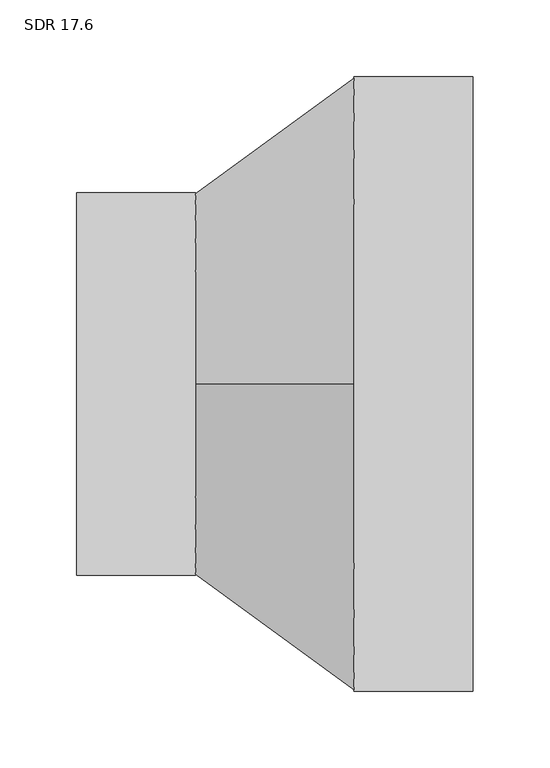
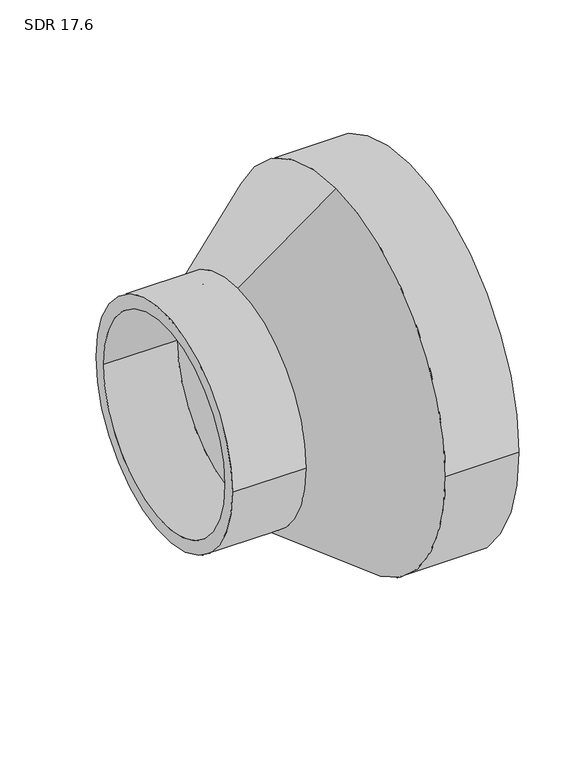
"""IFC4 building model written with IfcOpenShell, lengths in millimetres: pipe fitting geometry, Aquatherm - Reducing Coupling Combined - METRIC : SDR 17.6."""

from ifc_helpers import new_model, si_unit, frame, origin, place, context, project, spatial, polyline, circle_curve, source, transform, mapped, element, save
from ifc_brep_helpers import plane_surface, cylinder_surface, revolved_surface, advanced_brep


def sdr_17_6_3ecfc530(model_context):
    return source(origin(), model_context, "Body", "AdvancedBrep", [
        advanced_brep(
        [(-129.54, -124.968, 0.0), (-129.54, 124.968, 0.0), (-129.54, -110.7670909, 0.0), (-129.54, 110.7670909, 0.0), (-51.816, 110.7670909, 0.0), (-51.816, 0.0, 110.7670909), (-51.816, -110.7670909, 0.0), (-51.816, 0.0, -110.7670909), (-51.816, 124.968, 0.0), (-51.816, 0.0, -124.968), (-51.816, -124.968, 0.0), (-51.816, 0.0, 124.968), (129.54, -200.66, 0.0), (129.54, 200.66, 0.0), (129.54, -177.8577273, 0.0), (129.54, 177.8577273, 0.0), (51.816, -200.66, 0.0), (51.816, 0.0, -200.66), (51.816, 200.66, 0.0), (51.816, 0.0, 200.66), (51.816, -177.8577273, 0.0), (51.816, 0.0, 177.8577273), (51.816, 177.8577273, 0.0), (51.816, 0.0, -177.8577273)],
        [
            (0, 1, circle_curve(frame((-129.54, 0.0, 0.0), z_axis=(-1.0, 0.0, 0.0), x_axis=(0.0, 1.0, 0.0)), 124.968)),
            (1, 0, circle_curve(frame((-129.54, 0.0, 0.0), z_axis=(-1.0, 0.0, 0.0), x_axis=(0.0, 1.0, 0.0)), 124.968)),
            (2, 3, circle_curve(frame((-129.54, 0.0, 0.0), z_axis=(1.0, 0.0, 0.0), x_axis=(0.0, 1.0, 0.0)), 110.7670909)),
            (3, 2, circle_curve(frame((-129.54, 0.0, 0.0), z_axis=(1.0, 0.0, 0.0), x_axis=(0.0, 1.0, 0.0)), 110.7670909)),
            (3, 4),
            (4, 5, circle_curve(frame((-51.816, 0.0, 0.0), z_axis=(1.0, 0.0, 0.0), x_axis=(0.0, 1.0, 0.0)), 110.7670909)),
            (5, 6, circle_curve(frame((-51.816, 0.0, 0.0), z_axis=(1.0, 0.0, 0.0), x_axis=(0.0, 1.0, 0.0)), 110.7670909)),
            (6, 2),
            (6, 7, circle_curve(frame((-51.816, 0.0, 0.0), z_axis=(1.0, 0.0, 0.0), x_axis=(0.0, 1.0, 0.0)), 110.7670909)),
            (7, 4, circle_curve(frame((-51.816, 0.0, 0.0), z_axis=(1.0, 0.0, 0.0), x_axis=(0.0, 1.0, 0.0)), 110.7670909)),
            (1, 8),
            (8, 9, circle_curve(frame((-51.816, 0.0, 0.0), z_axis=(-1.0, 0.0, 0.0), x_axis=(0.0, 1.0, 0.0)), 124.968)),
            (9, 10, circle_curve(frame((-51.816, 0.0, 0.0), z_axis=(-1.0, 0.0, 0.0), x_axis=(0.0, 1.0, 0.0)), 124.968)),
            (10, 0),
            (10, 11, circle_curve(frame((-51.816, 0.0, 0.0), z_axis=(-1.0, 0.0, 0.0), x_axis=(0.0, 1.0, 0.0)), 124.968)),
            (11, 8, circle_curve(frame((-51.816, 0.0, 0.0), z_axis=(-1.0, 0.0, 0.0), x_axis=(0.0, 1.0, 0.0)), 124.968)),
            (12, 13, circle_curve(frame((129.54, 0.0, 0.0), z_axis=(1.0, 0.0, 0.0), x_axis=(0.0, 1.0, 0.0)), 200.66)),
            (13, 12, circle_curve(frame((129.54, 0.0, 0.0), z_axis=(1.0, 0.0, 0.0), x_axis=(0.0, 1.0, 0.0)), 200.66)),
            (14, 15, circle_curve(frame((129.54, 0.0, 0.0), z_axis=(-1.0, 0.0, 0.0), x_axis=(0.0, 1.0, 0.0)), 177.8577273)),
            (15, 14, circle_curve(frame((129.54, 0.0, 0.0), z_axis=(-1.0, 0.0, 0.0), x_axis=(0.0, 1.0, 0.0)), 177.8577273)),
            (12, 16),
            (16, 17, circle_curve(frame((51.816, 0.0, 0.0), z_axis=(1.0, 0.0, 0.0), x_axis=(0.0, 1.0, 0.0)), 200.66)),
            (17, 18, circle_curve(frame((51.816, 0.0, 0.0), z_axis=(1.0, 0.0, 0.0), x_axis=(0.0, 1.0, 0.0)), 200.66)),
            (18, 13),
            (18, 19, circle_curve(frame((51.816, 0.0, 0.0), z_axis=(1.0, 0.0, 0.0), x_axis=(0.0, 1.0, 0.0)), 200.66)),
            (19, 16, circle_curve(frame((51.816, 0.0, 0.0), z_axis=(1.0, 0.0, 0.0), x_axis=(0.0, 1.0, 0.0)), 200.66)),
            (14, 20),
            (20, 21, circle_curve(frame((51.816, 0.0, 0.0), z_axis=(-1.0, 0.0, 0.0), x_axis=(0.0, 1.0, 0.0)), 177.8577273)),
            (21, 22, circle_curve(frame((51.816, 0.0, 0.0), z_axis=(-1.0, 0.0, 0.0), x_axis=(0.0, 1.0, 0.0)), 177.8577273)),
            (22, 15),
            (22, 23, circle_curve(frame((51.816, 0.0, 0.0), z_axis=(-1.0, 0.0, 0.0), x_axis=(0.0, 1.0, 0.0)), 177.8577273)),
            (23, 20, circle_curve(frame((51.816, 0.0, 0.0), z_axis=(-1.0, 0.0, 0.0), x_axis=(0.0, 1.0, 0.0)), 177.8577273)),
            (11, 19),
            (17, 9),
            (21, 5),
            (7, 23),
        ],
        [
            plane_surface(frame((-129.54, 110.7670909, 0.0), z_axis=(-1.0, 0.0, 0.0), x_axis=(0.0, 0.0, 1.0))),
            revolved_surface(polyline([(-129.54, 110.7670909, 0.0), (-51.816, 110.7670909, 0.0)]), (-129.54, 0.0, 0.0), (-1.0, 0.0, 0.0)),
            cylinder_surface(frame((0.0, 0.0, 0.0), z_axis=(1.0, 0.0, 0.0), x_axis=(0.0, 1.0, 0.0)), 124.968),
            plane_surface(frame((129.54, 200.66, 0.0), z_axis=(1.0, 0.0, 0.0), x_axis=(0.0, 0.0, 1.0))),
            cylinder_surface(frame((51.816, 0.0, 0.0), z_axis=(1.0, 0.0, 0.0), x_axis=(0.0, 1.0, 0.0)), 200.66),
            revolved_surface(polyline([(51.816, 177.8577273, 0.0), (129.54, 177.8577273, 0.0)]), (0.0, 0.0, 0.0), (-1.0, 0.0, 0.0)),
            revolved_surface(polyline([(51.816, 0.0, 200.66), (-51.816, 0.0, 124.968)]), (-704.7995384, 0.0, 0.0), (-1.0, 0.0, 0.0)),
            revolved_surface(polyline([(-51.816, 0.0, 110.7670909), (51.816, 0.0, 177.8577273)]), (-704.7995384, 0.0, 0.0), (-1.0, 0.0, 0.0)),
        ],
        [
            (0, [[1, 2], [3, 4]]),
            (1, [[-4, 5, 6, 7, 8]]),
            (1, [[-3, -8, 9, 10, -5]]),
            (2, [[-2, 11, 12, 13, 14]]),
            (2, [[-1, -14, 15, 16, -11]]),
            (3, [[17, 18], [19, 20]]),
            (4, [[-17, 21, 22, 23, 24]]),
            (4, [[-18, -24, 25, 26, -21]]),
            (5, [[-19, 27, 28, 29, 30]]),
            (5, [[-20, -30, 31, 32, -27]]),
            (6, [[33, -25, -23, 34, -12, -16]]),
            (6, [[-33, -15, -13, -34, -22, -26]]),
            (7, [[35, -6, -10, 36, -31, -29]]),
            (7, [[-35, -28, -32, -36, -9, -7]]),
        ],
    ),
    ])


if __name__ == "__main__":
    model = new_model("IFC4")
    model_context = context("Model", 3, world=origin())
    ifc_project = project(units=[si_unit("LENGTHUNIT", "METRE", prefix="MILLI")], contexts=[model_context])
    site = spatial("IfcSite", under=ifc_project)
    building = spatial("IfcBuilding", under=site)
    placement = place(None, origin())
    sdr_17_6_shape = sdr_17_6_3ecfc530(model_context)
    element("IfcPipeFitting", 1, ObjectType="Aquatherm - Reducing Coupling Combined - METRIC : SDR 17.6", at=placement, inside=building, context=model_context, shape_type="MappedRepresentation", body=[
        mapped(sdr_17_6_shape, transform((0.0, 0.0, 0.0), x_axis=(1.0, 0.0, 0.0), y_axis=(0.0, 1.0, 0.0), z_axis=(0.0, 0.0, 1.0))),
    ])
    save(model, "model.ifc")
